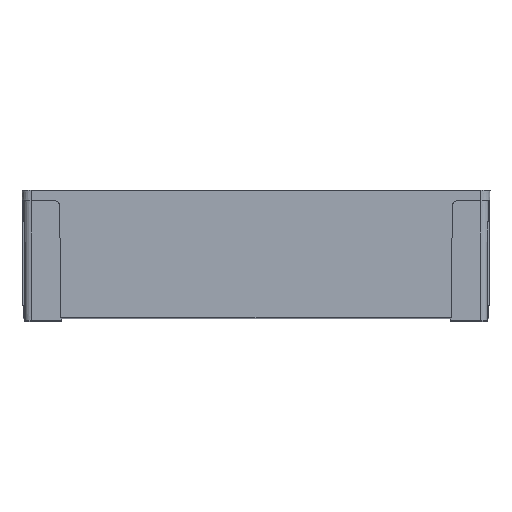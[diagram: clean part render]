
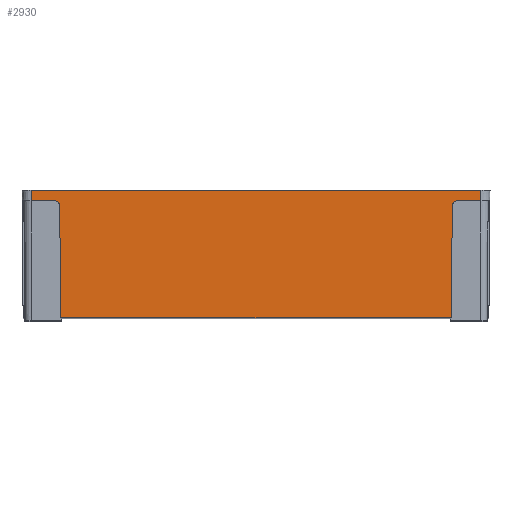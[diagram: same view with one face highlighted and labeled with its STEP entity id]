
A CAD part, top view. The second image highlights one B-rep face of the part: STEP entity #2930.
In plain terms, the highlighted planar face has unit normal (0, -0.009, 1).
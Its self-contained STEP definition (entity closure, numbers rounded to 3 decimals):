
#2863 = VERTEX_POINT ( 'NONE', #7210 ) ;
#2867 = VERTEX_POINT ( 'NONE', #7204 ) ;
#2914 = ORIENTED_EDGE ( 'NONE', *, *, #2915, .F. ) ;
#2915 = EDGE_CURVE ( 'NONE', #3255, #2867, #7286, .T. ) ;
#2916 = ORIENTED_EDGE ( 'NONE', *, *, #3254, .F. ) ;
#2917 = ORIENTED_EDGE ( 'NONE', *, *, #2918, .T. ) ;
#2918 = EDGE_CURVE ( 'NONE', #3252, #2919, #7282, .T. ) ;
#2919 = VERTEX_POINT ( 'NONE', #7278 ) ;
#2920 = ORIENTED_EDGE ( 'NONE', *, *, #2921, .T. ) ;
#2921 = EDGE_CURVE ( 'NONE', #2919, #2922, #7275, .T. ) ;
#2922 = VERTEX_POINT ( 'NONE', #7277 ) ;
#2923 = ORIENTED_EDGE ( 'NONE', *, *, #2924, .F. ) ;
#2924 = EDGE_CURVE ( 'NONE', #3158, #2922, #7276, .T. ) ;
#2925 = ORIENTED_EDGE ( 'NONE', *, *, #3157, .T. ) ;
#2929 = EDGE_CURVE ( 'NONE', #2863, #2867, #7312, .T. ) ;
#2930 = ADVANCED_FACE ( 'NONE', ( #7308 ), #7307, .T. ) ;
#2931 = EDGE_LOOP ( 'NONE', ( #2932, #2935, #2938, #2940, #2914, #2916, #2917, #2920, #2923, #2925 ) ) ;
#2932 = ORIENTED_EDGE ( 'NONE', *, *, #2933, .F. ) ;
#2933 = EDGE_CURVE ( 'NONE', #2934, #3155, #7302, .T. ) ;
#2934 = VERTEX_POINT ( 'NONE', #7298 ) ;
#2935 = ORIENTED_EDGE ( 'NONE', *, *, #2936, .T. ) ;
#2936 = EDGE_CURVE ( 'NONE', #2934, #2937, #7348, .T. ) ;
#2937 = VERTEX_POINT ( 'NONE', #7297 ) ;
#2938 = ORIENTED_EDGE ( 'NONE', *, *, #2939, .F. ) ;
#2939 = EDGE_CURVE ( 'NONE', #2863, #2937, #7296, .T. ) ;
#2940 = ORIENTED_EDGE ( 'NONE', *, *, #2929, .T. ) ;
#3155 = VERTEX_POINT ( 'NONE', #7665 ) ;
#3157 = EDGE_CURVE ( 'NONE', #3158, #3155, #7664, .T. ) ;
#3158 = VERTEX_POINT ( 'NONE', #7724 ) ;
#3252 = VERTEX_POINT ( 'NONE', #7830 ) ;
#3254 = EDGE_CURVE ( 'NONE', #3252, #3255, #7829, .T. ) ;
#3255 = VERTEX_POINT ( 'NONE', #7825 ) ;
#7204 = CARTESIAN_POINT ( 'NONE',  ( 86.55, 0., 127.55 ) ) ;
#7210 = CARTESIAN_POINT ( 'NONE',  ( 86.55, -4., 127.515 ) ) ;
#7274 = CARTESIAN_POINT ( 'NONE',  ( -77.533, -4., 127.515 ) ) ;
#7275 =( BOUNDED_CURVE ( )  B_SPLINE_CURVE ( 3, ( #7274, #7324, #7323, #7322 ),
 .UNSPECIFIED., .F., .T. ) 
 B_SPLINE_CURVE_WITH_KNOTS ( ( 4, 4 ),
 ( 3.142, 4.704 ),
 .UNSPECIFIED. ) 
 CURVE ( )  GEOMETRIC_REPRESENTATION_ITEM ( )  RATIONAL_B_SPLINE_CURVE ( ( 1., 0.807, 0.807, 1. ) ) 
 REPRESENTATION_ITEM ( '' )  );
#7276 = LINE ( 'NONE', #7321, #7320 ) ;
#7277 = CARTESIAN_POINT ( 'NONE',  ( -75.533, -5.983, 127.498 ) ) ;
#7278 = CARTESIAN_POINT ( 'NONE',  ( -77.533, -4., 127.515 ) ) ;
#7279 = DIRECTION ( 'NONE',  ( 1., 0., 0. ) ) ;
#7280 = VECTOR ( 'NONE', #7279, 1000. ) ;
#7281 = CARTESIAN_POINT ( 'NONE',  ( -86.55, -4., 127.515 ) ) ;
#7282 = LINE ( 'NONE', #7281, #7280 ) ;
#7283 = DIRECTION ( 'NONE',  ( 1., 0., 0. ) ) ;
#7284 = VECTOR ( 'NONE', #7283, 1000. ) ;
#7285 = CARTESIAN_POINT ( 'NONE',  ( -86.55, 0., 127.55 ) ) ;
#7286 = LINE ( 'NONE', #7285, #7284 ) ;
#7296 = LINE ( 'NONE', #7343, #7342 ) ;
#7297 = CARTESIAN_POINT ( 'NONE',  ( 77.533, -4., 127.515 ) ) ;
#7298 = CARTESIAN_POINT ( 'NONE',  ( 75.533, -5.983, 127.498 ) ) ;
#7299 = DIRECTION ( 'NONE',  ( -0.009, -1., -0.009 ) ) ;
#7300 = VECTOR ( 'NONE', #7299, 1000. ) ;
#7301 = CARTESIAN_POINT ( 'NONE',  ( 75.573, -1.415, 127.538 ) ) ;
#7302 = LINE ( 'NONE', #7301, #7300 ) ;
#7303 = DIRECTION ( 'NONE',  ( 0., -1., -0.009 ) ) ;
#7304 = DIRECTION ( 'NONE',  ( 0., -0.009, 1. ) ) ;
#7305 = CARTESIAN_POINT ( 'NONE',  ( -86.55, 0., 127.55 ) ) ;
#7306 = AXIS2_PLACEMENT_3D ( 'NONE', #7305, #7304, #7303 ) ;
#7307 = PLANE ( 'NONE',  #7306 ) ;
#7308 = FACE_OUTER_BOUND ( 'NONE', #2931, .T. ) ;
#7309 = DIRECTION ( 'NONE',  ( 0., 1., 0.009 ) ) ;
#7310 = VECTOR ( 'NONE', #7309, 1000. ) ;
#7311 = CARTESIAN_POINT ( 'NONE',  ( 86.55, 0., 127.55 ) ) ;
#7312 = LINE ( 'NONE', #7311, #7310 ) ;
#7319 = DIRECTION ( 'NONE',  ( -0.009, 1., 0.009 ) ) ;
#7320 = VECTOR ( 'NONE', #7319, 1000. ) ;
#7321 = CARTESIAN_POINT ( 'NONE',  ( -75.586, 0.096, 127.551 ) ) ;
#7322 = CARTESIAN_POINT ( 'NONE',  ( -75.533, -5.983, 127.498 ) ) ;
#7323 = CARTESIAN_POINT ( 'NONE',  ( -75.543, -4.819, 127.508 ) ) ;
#7324 = CARTESIAN_POINT ( 'NONE',  ( -76.369, -4., 127.515 ) ) ;
#7341 = DIRECTION ( 'NONE',  ( -1., 0., 0. ) ) ;
#7342 = VECTOR ( 'NONE', #7341, 1000. ) ;
#7343 = CARTESIAN_POINT ( 'NONE',  ( -86.55, -4., 127.515 ) ) ;
#7344 = CARTESIAN_POINT ( 'NONE',  ( 77.533, -4., 127.515 ) ) ;
#7345 = CARTESIAN_POINT ( 'NONE',  ( 76.369, -4., 127.515 ) ) ;
#7346 = CARTESIAN_POINT ( 'NONE',  ( 75.543, -4.819, 127.508 ) ) ;
#7347 = CARTESIAN_POINT ( 'NONE',  ( 75.533, -5.983, 127.498 ) ) ;
#7348 =( BOUNDED_CURVE ( )  B_SPLINE_CURVE ( 3, ( #7347, #7346, #7345, #7344 ),
 .UNSPECIFIED., .F., .T. ) 
 B_SPLINE_CURVE_WITH_KNOTS ( ( 4, 4 ),
 ( 1.58, 3.142 ),
 .UNSPECIFIED. ) 
 CURVE ( )  GEOMETRIC_REPRESENTATION_ITEM ( )  RATIONAL_B_SPLINE_CURVE ( ( 1., 0.807, 0.807, 1. ) ) 
 REPRESENTATION_ITEM ( '' )  );
#7664 = LINE ( 'NONE', #7727, #7726 ) ;
#7665 = CARTESIAN_POINT ( 'NONE',  ( 75.157, -49., 127.122 ) ) ;
#7724 = CARTESIAN_POINT ( 'NONE',  ( -75.157, -49., 127.122 ) ) ;
#7725 = DIRECTION ( 'NONE',  ( 1., 0., 0. ) ) ;
#7726 = VECTOR ( 'NONE', #7725, 1000. ) ;
#7727 = CARTESIAN_POINT ( 'NONE',  ( -86.55, -49., 127.122 ) ) ;
#7825 = CARTESIAN_POINT ( 'NONE',  ( -86.55, 0., 127.55 ) ) ;
#7826 = DIRECTION ( 'NONE',  ( 0., 1., 0.009 ) ) ;
#7827 = VECTOR ( 'NONE', #7826, 1000. ) ;
#7828 = CARTESIAN_POINT ( 'NONE',  ( -86.55, 0., 127.55 ) ) ;
#7829 = LINE ( 'NONE', #7828, #7827 ) ;
#7830 = CARTESIAN_POINT ( 'NONE',  ( -86.55, -4., 127.515 ) ) ;
